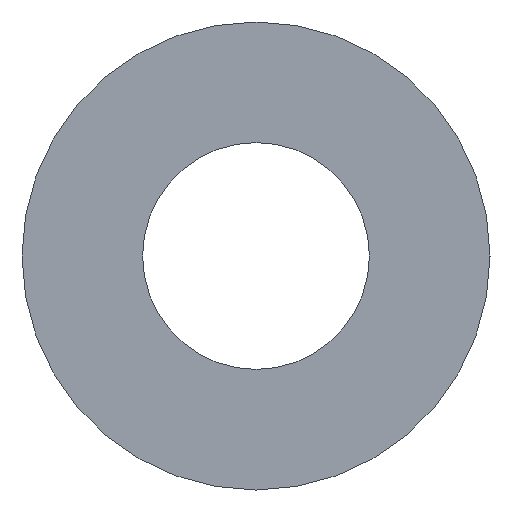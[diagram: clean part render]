
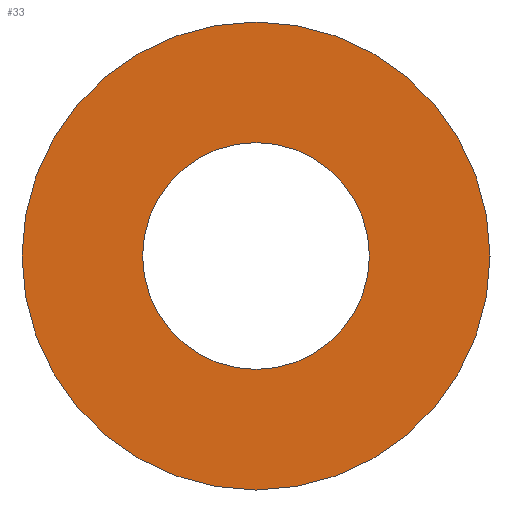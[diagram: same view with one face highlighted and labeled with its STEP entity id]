
A CAD part, left-side view. The second image highlights one B-rep face of the part: STEP entity #33.
In plain terms, the highlighted planar face has unit normal (-1, 0, 0).
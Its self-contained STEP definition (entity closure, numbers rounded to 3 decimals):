
#27=FACE_BOUND('',#45,.F.);
#29=PLANE('',#135);
#33=ADVANCED_FACE('',(#27,#39),#29,.T.);
#39=FACE_OUTER_BOUND('',#46,.F.);
#45=EDGE_LOOP('',(#59,#60));
#46=EDGE_LOOP('',(#61,#62));
#59=ORIENTED_EDGE('',*,*,#103,.T.);
#60=ORIENTED_EDGE('',*,*,#95,.T.);
#61=ORIENTED_EDGE('',*,*,#106,.F.);
#62=ORIENTED_EDGE('',*,*,#98,.F.);
#95=EDGE_CURVE('',#122,#121,#107,.T.);
#98=EDGE_CURVE('',#116,#115,#110,.T.);
#103=EDGE_CURVE('',#121,#122,#111,.T.);
#106=EDGE_CURVE('',#115,#116,#114,.T.);
#107=CIRCLE('',#125,3.15);
#110=CIRCLE('',#128,6.5);
#111=CIRCLE('',#129,3.15);
#114=CIRCLE('',#132,6.5);
#115=VERTEX_POINT('',#177);
#116=VERTEX_POINT('',#178);
#121=VERTEX_POINT('',#183);
#122=VERTEX_POINT('',#184);
#125=AXIS2_PLACEMENT_3D('',#185,#142,#143);
#128=AXIS2_PLACEMENT_3D('',#188,#148,#149);
#129=AXIS2_PLACEMENT_3D('',#193,#154,#155);
#132=AXIS2_PLACEMENT_3D('',#196,#160,#161);
#135=AXIS2_PLACEMENT_3D('',#199,#166,#167);
#142=DIRECTION('',(-1.,0.,0.));
#143=DIRECTION('',(0.,1.,0.));
#148=DIRECTION('',(-1.,0.,0.));
#149=DIRECTION('',(0.,1.,0.));
#154=DIRECTION('',(-1.,0.,0.));
#155=DIRECTION('',(0.,-1.,0.));
#160=DIRECTION('',(-1.,0.,0.));
#161=DIRECTION('',(0.,-1.,0.));
#166=DIRECTION('',(-1.,0.,0.));
#167=DIRECTION('',(0.,0.,1.));
#177=CARTESIAN_POINT('',(2459.371,-2754.103,2510.883));
#178=CARTESIAN_POINT('',(2459.371,-2741.103,2510.883));
#183=CARTESIAN_POINT('',(2459.371,-2750.753,2510.883));
#184=CARTESIAN_POINT('',(2459.371,-2744.453,2510.883));
#185=CARTESIAN_POINT('',(2459.371,-2747.603,2510.883));
#188=CARTESIAN_POINT('',(2459.371,-2747.603,2510.883));
#193=CARTESIAN_POINT('',(2459.371,-2747.603,2510.883));
#196=CARTESIAN_POINT('',(2459.371,-2747.603,2510.883));
#199=CARTESIAN_POINT('',(2459.371,-2754.233,2504.253));
